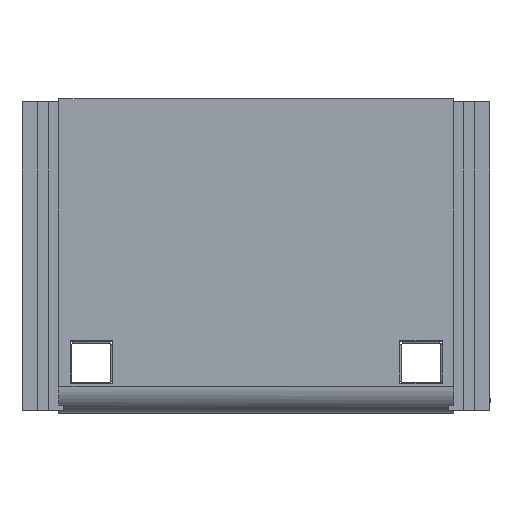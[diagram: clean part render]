
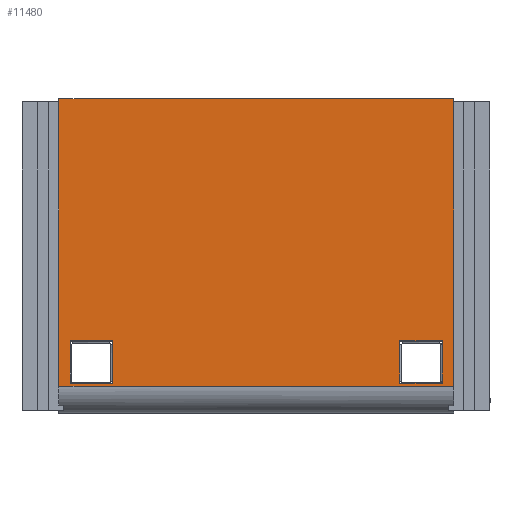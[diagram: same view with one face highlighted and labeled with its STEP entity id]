
A CAD part, front view. The second image highlights one B-rep face of the part: STEP entity #11480.
In plain terms, the highlighted planar face has unit normal (0, -1, 0).
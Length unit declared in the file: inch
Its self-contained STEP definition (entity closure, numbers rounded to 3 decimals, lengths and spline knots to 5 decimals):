
#11214=CARTESIAN_POINT('Vertex',(-15.075,3.77579,2.05)) ;
#11217=CARTESIAN_POINT('Line Origine',(-15.075,3.77579,13.03873)) ;
#11221=CARTESIAN_POINT('Vertex',(-15.075,3.77579,24.02745)) ;
#11382=CARTESIAN_POINT('Axis2P3D Location',(0.,3.77579,6.22645)) ;
#11387=CARTESIAN_POINT('Line Origine',(0.,3.77579,2.05)) ;
#11391=CARTESIAN_POINT('Vertex',(15.075,3.77579,2.05)) ;
#11394=CARTESIAN_POINT('Line Origine',(15.075,3.77579,13.03873)) ;
#11398=CARTESIAN_POINT('Vertex',(15.075,3.77579,24.02745)) ;
#11401=CARTESIAN_POINT('Line Origine',(0.,3.77579,24.02745)) ;
#11412=CARTESIAN_POINT('Line Origine',(-10.9595,3.77579,3.92845)) ;
#11416=CARTESIAN_POINT('Vertex',(-10.9595,3.77579,5.55345)) ;
#11418=CARTESIAN_POINT('Vertex',(-10.9595,3.77579,2.30345)) ;
#11421=CARTESIAN_POINT('Line Origine',(-12.5845,3.77579,2.30345)) ;
#11425=CARTESIAN_POINT('Vertex',(-14.2095,3.77579,2.30345)) ;
#11428=CARTESIAN_POINT('Line Origine',(-14.2095,3.77579,3.92845)) ;
#11432=CARTESIAN_POINT('Vertex',(-14.2095,3.77579,5.55345)) ;
#11435=CARTESIAN_POINT('Line Origine',(-12.5845,3.77579,5.55345)) ;
#11446=CARTESIAN_POINT('Line Origine',(14.2095,3.77579,3.92845)) ;
#11450=CARTESIAN_POINT('Vertex',(14.2095,3.77579,5.55345)) ;
#11452=CARTESIAN_POINT('Vertex',(14.2095,3.77579,2.30345)) ;
#11455=CARTESIAN_POINT('Line Origine',(12.5845,3.77579,2.30345)) ;
#11459=CARTESIAN_POINT('Vertex',(10.9595,3.77579,2.30345)) ;
#11462=CARTESIAN_POINT('Line Origine',(10.9595,3.77579,3.92845)) ;
#11466=CARTESIAN_POINT('Vertex',(10.9595,3.77579,5.55345)) ;
#11469=CARTESIAN_POINT('Line Origine',(12.5845,3.77579,5.55345)) ;
#11218=DIRECTION('Vector Direction',(0.,0.,-1.)) ;
#11383=DIRECTION('Axis2P3D Direction',(0.,1.,0.)) ;
#11384=DIRECTION('Axis2P3D XDirection',(1.,0.,0.)) ;
#11388=DIRECTION('Vector Direction',(-1.,0.,0.)) ;
#11395=DIRECTION('Vector Direction',(0.,0.,-1.)) ;
#11402=DIRECTION('Vector Direction',(-1.,0.,0.)) ;
#11413=DIRECTION('Vector Direction',(0.,0.,-1.)) ;
#11422=DIRECTION('Vector Direction',(-1.,0.,0.)) ;
#11429=DIRECTION('Vector Direction',(0.,0.,1.)) ;
#11436=DIRECTION('Vector Direction',(1.,0.,0.)) ;
#11447=DIRECTION('Vector Direction',(0.,0.,-1.)) ;
#11456=DIRECTION('Vector Direction',(-1.,0.,0.)) ;
#11463=DIRECTION('Vector Direction',(0.,0.,1.)) ;
#11470=DIRECTION('Vector Direction',(1.,0.,0.)) ;
#11385=AXIS2_PLACEMENT_3D('Plane Axis2P3D',#11382,#11383,#11384) ;
#11407=ORIENTED_EDGE('',*,*,#11393,.F.) ;
#11408=ORIENTED_EDGE('',*,*,#11400,.F.) ;
#11409=ORIENTED_EDGE('',*,*,#11405,.T.) ;
#11410=ORIENTED_EDGE('',*,*,#11223,.T.) ;
#11441=ORIENTED_EDGE('',*,*,#11420,.T.) ;
#11442=ORIENTED_EDGE('',*,*,#11427,.T.) ;
#11443=ORIENTED_EDGE('',*,*,#11434,.T.) ;
#11444=ORIENTED_EDGE('',*,*,#11439,.T.) ;
#11475=ORIENTED_EDGE('',*,*,#11454,.T.) ;
#11476=ORIENTED_EDGE('',*,*,#11461,.T.) ;
#11477=ORIENTED_EDGE('',*,*,#11468,.T.) ;
#11478=ORIENTED_EDGE('',*,*,#11473,.T.) ;
#11445=FACE_BOUND('',#11440,.T.) ;
#11479=FACE_BOUND('',#11474,.T.) ;
#11219=VECTOR('Line Direction',#11218,0.03937) ;
#11389=VECTOR('Line Direction',#11388,0.03937) ;
#11396=VECTOR('Line Direction',#11395,0.03937) ;
#11403=VECTOR('Line Direction',#11402,0.03937) ;
#11414=VECTOR('Line Direction',#11413,0.03937) ;
#11423=VECTOR('Line Direction',#11422,0.03937) ;
#11430=VECTOR('Line Direction',#11429,0.03937) ;
#11437=VECTOR('Line Direction',#11436,0.03937) ;
#11448=VECTOR('Line Direction',#11447,0.03937) ;
#11457=VECTOR('Line Direction',#11456,0.03937) ;
#11464=VECTOR('Line Direction',#11463,0.03937) ;
#11471=VECTOR('Line Direction',#11470,0.03937) ;
#11480=ADVANCED_FACE('Sketched Bend3',(#11411,#11445,#11479),#11386,.F.) ;
#11223=EDGE_CURVE('',#11222,#11215,#11220,.T.) ;
#11393=EDGE_CURVE('',#11392,#11215,#11390,.T.) ;
#11400=EDGE_CURVE('',#11399,#11392,#11397,.T.) ;
#11405=EDGE_CURVE('',#11399,#11222,#11404,.T.) ;
#11420=EDGE_CURVE('',#11417,#11419,#11415,.T.) ;
#11427=EDGE_CURVE('',#11419,#11426,#11424,.T.) ;
#11434=EDGE_CURVE('',#11426,#11433,#11431,.T.) ;
#11439=EDGE_CURVE('',#11433,#11417,#11438,.T.) ;
#11454=EDGE_CURVE('',#11451,#11453,#11449,.T.) ;
#11461=EDGE_CURVE('',#11453,#11460,#11458,.T.) ;
#11468=EDGE_CURVE('',#11460,#11467,#11465,.T.) ;
#11473=EDGE_CURVE('',#11467,#11451,#11472,.T.) ;
#11406=EDGE_LOOP('',(#11407,#11408,#11409,#11410)) ;
#11440=EDGE_LOOP('',(#11441,#11442,#11443,#11444)) ;
#11474=EDGE_LOOP('',(#11475,#11476,#11477,#11478)) ;
#11411=FACE_OUTER_BOUND('',#11406,.T.) ;
#11220=LINE('Line',#11217,#11219) ;
#11390=LINE('Line',#11387,#11389) ;
#11397=LINE('Line',#11394,#11396) ;
#11404=LINE('Line',#11401,#11403) ;
#11415=LINE('Line',#11412,#11414) ;
#11424=LINE('Line',#11421,#11423) ;
#11431=LINE('Line',#11428,#11430) ;
#11438=LINE('Line',#11435,#11437) ;
#11449=LINE('Line',#11446,#11448) ;
#11458=LINE('Line',#11455,#11457) ;
#11465=LINE('Line',#11462,#11464) ;
#11472=LINE('Line',#11469,#11471) ;
#11386=PLANE('',#11385) ;
#11215=VERTEX_POINT('',#11214) ;
#11222=VERTEX_POINT('',#11221) ;
#11392=VERTEX_POINT('',#11391) ;
#11399=VERTEX_POINT('',#11398) ;
#11417=VERTEX_POINT('',#11416) ;
#11419=VERTEX_POINT('',#11418) ;
#11426=VERTEX_POINT('',#11425) ;
#11433=VERTEX_POINT('',#11432) ;
#11451=VERTEX_POINT('',#11450) ;
#11453=VERTEX_POINT('',#11452) ;
#11460=VERTEX_POINT('',#11459) ;
#11467=VERTEX_POINT('',#11466) ;
